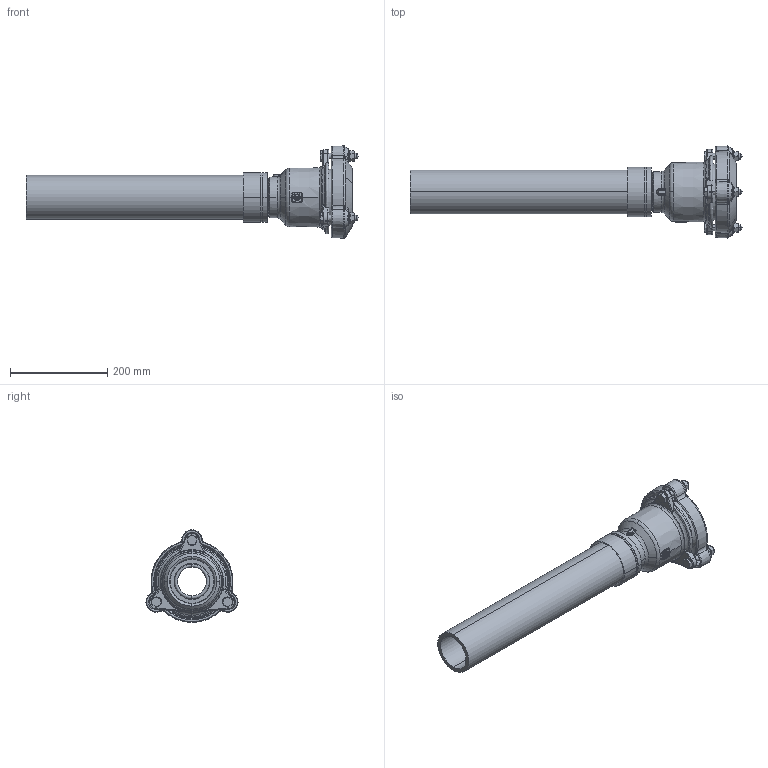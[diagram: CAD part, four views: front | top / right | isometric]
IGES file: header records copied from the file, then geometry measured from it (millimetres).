
Global section: file name: No Iges File Name specified; native system: AutoDesk Inventor R12.0; preprocessor: AutoDesk Inventor Iges Exporter R12.0; date: 20120508.091712; units: millimetre
Bounding box: 682 x 189.18 x 189.85 mm (x, y, z)
Volume: 1886339.3 mm3; surface area: 504430.6 mm2
Topology: 1 solids, 1 shells, 595 faces, 1613 edges, 1025 vertices
Faces by surface type: plane 130, bspline 109, cone 107, torus 95, revolution 79, cylinder 75
